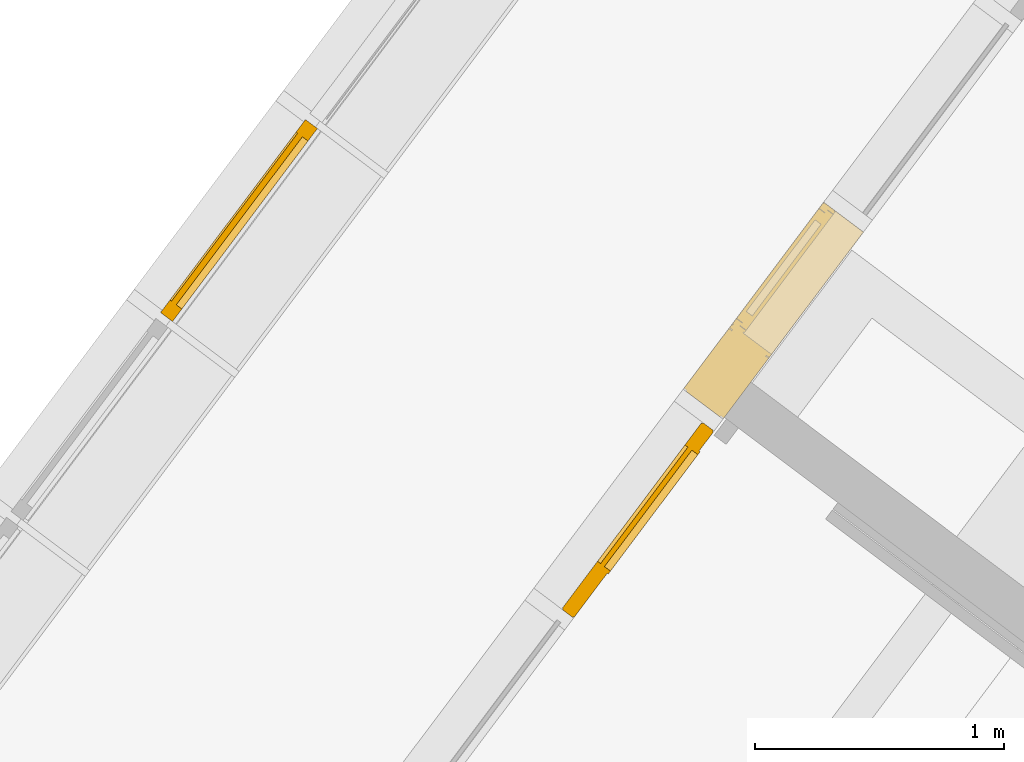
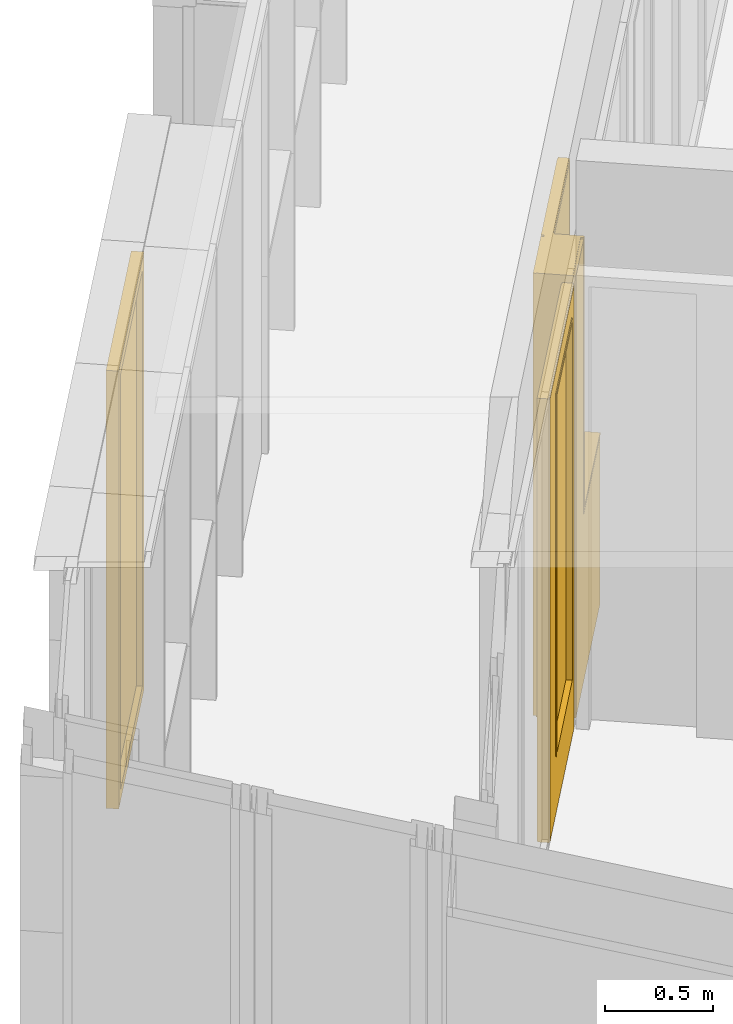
# One storey, part 179 of 243: 2 doors, 1 window, 2 elements without a shape of their own.
"""IFC2X3 building model written with IfcOpenShell, lengths in metres."""

from ifc_helpers import new_model, entity, si_unit, converted_unit, derived_unit, direction, frame, origin, place, context, subcontext, project, spatial, faceted_brep, source, transform, mapped, material, material_list, type_object, type_shapes, element, aggregate, save


model = new_model("IFC2X3")

# Units and contexts
model_context = context("Model", 3, precision=1e-05, world=origin(), true_north=direction((6.123031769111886e-17, 1.0)))
body_context = subcontext(model_context, "Body", "Model", "MODEL_VIEW")
ifc_project = project(units=[si_unit("LENGTHUNIT", "METRE"), si_unit("AREAUNIT", "SQUARE_METRE"), si_unit("VOLUMEUNIT", "CUBIC_METRE"), converted_unit("PLANEANGLEUNIT", "DEGREE", entity("IfcRatioMeasure", 0.017453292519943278), si_unit("PLANEANGLEUNIT", "RADIAN"), dimensions=[0, 0, 0, 0, 0, 0, 0]), si_unit("MASSUNIT", "GRAM", prefix="KILO"), derived_unit("MASSDENSITYUNIT", [(si_unit("MASSUNIT", "GRAM", prefix="KILO"), 1), (si_unit("LENGTHUNIT", "METRE"), -3)]), derived_unit("IONCONCENTRATIONUNIT", [(si_unit("MASSUNIT", "GRAM", prefix="KILO"), 1), (si_unit("LENGTHUNIT", "METRE"), -3)]), derived_unit("MOMENTOFINERTIAUNIT", [(si_unit("LENGTHUNIT", "METRE"), 4)]), si_unit("TIMEUNIT", "SECOND"), si_unit("FREQUENCYUNIT", "HERTZ"), si_unit("THERMODYNAMICTEMPERATUREUNIT", "DEGREE_CELSIUS"), derived_unit("THERMALTRANSMITTANCEUNIT", [(si_unit("MASSUNIT", "GRAM", prefix="KILO"), 1), (si_unit("THERMODYNAMICTEMPERATUREUNIT", "KELVIN"), -1), (si_unit("TIMEUNIT", "SECOND"), -3)]), derived_unit("THERMALCONDUCTANCEUNIT", [(si_unit("MASSUNIT", "GRAM", prefix="KILO"), 1), (si_unit("THERMODYNAMICTEMPERATUREUNIT", "KELVIN"), -1), (si_unit("TIMEUNIT", "SECOND"), -3), (si_unit("LENGTHUNIT", "METRE"), 1)]), derived_unit("VOLUMETRICFLOWRATEUNIT", [(si_unit("LENGTHUNIT", "METRE"), 3), (si_unit("TIMEUNIT", "SECOND"), -1)]), derived_unit("MASSFLOWRATEUNIT", [(si_unit("MASSUNIT", "GRAM", prefix="KILO"), 1), (si_unit("TIMEUNIT", "SECOND"), -1)]), derived_unit("ROTATIONALFREQUENCYUNIT", [(si_unit("TIMEUNIT", "SECOND"), -1)]), si_unit("ELECTRICCURRENTUNIT", "AMPERE"), si_unit("ELECTRICVOLTAGEUNIT", "VOLT"), si_unit("POWERUNIT", "WATT"), si_unit("FORCEUNIT", "NEWTON", prefix="KILO"), si_unit("ILLUMINANCEUNIT", "LUX"), si_unit("LUMINOUSFLUXUNIT", "LUMEN"), si_unit("LUMINOUSINTENSITYUNIT", "CANDELA"), derived_unit("USERDEFINED", [(si_unit("MASSUNIT", "GRAM", prefix="KILO"), -1), (si_unit("LENGTHUNIT", "METRE"), -2), (si_unit("TIMEUNIT", "SECOND"), 3), (si_unit("LUMINOUSFLUXUNIT", "LUMEN"), 1)]), derived_unit("USERDEFINED", [(si_unit("MASSUNIT", "GRAM", prefix="KILO"), 1), (si_unit("TIMEUNIT", "SECOND"), -3), (si_unit("LENGTHUNIT", "METRE"), 3), (si_unit("ELECTRICCURRENTUNIT", "AMPERE"), -2)]), derived_unit("SOUNDPOWERUNIT", [(si_unit("MASSUNIT", "GRAM", prefix="KILO"), 1), (si_unit("TIMEUNIT", "SECOND"), -3), (si_unit("LENGTHUNIT", "METRE"), 2)]), derived_unit("SOUNDPRESSUREUNIT", [(si_unit("MASSUNIT", "GRAM", prefix="KILO"), 1), (si_unit("LENGTHUNIT", "METRE"), -1), (si_unit("TIMEUNIT", "SECOND"), -2)]), derived_unit("LINEARVELOCITYUNIT", [(si_unit("LENGTHUNIT", "METRE"), 1), (si_unit("TIMEUNIT", "SECOND"), -1)]), si_unit("PRESSUREUNIT", "PASCAL"), derived_unit("USERDEFINED", [(si_unit("MASSUNIT", "GRAM", prefix="KILO"), 1), (si_unit("LENGTHUNIT", "METRE"), -2), (si_unit("TIMEUNIT", "SECOND"), -2)]), derived_unit("LINEARFORCEUNIT", [(si_unit("MASSUNIT", "GRAM", prefix="KILO"), 1), (si_unit("TIMEUNIT", "SECOND"), -2)]), derived_unit("PLANARFORCEUNIT", [(si_unit("MASSUNIT", "GRAM", prefix="KILO"), 1), (si_unit("LENGTHUNIT", "METRE"), -1), (si_unit("TIMEUNIT", "SECOND"), -2)]), derived_unit("SPECIFICHEATCAPACITYUNIT", [(si_unit("THERMODYNAMICTEMPERATUREUNIT", "KELVIN"), -1), (si_unit("LENGTHUNIT", "METRE"), 2), (si_unit("TIMEUNIT", "SECOND"), -2)]), derived_unit("HEATINGVALUEUNIT", [(si_unit("LENGTHUNIT", "METRE"), 2), (si_unit("TIMEUNIT", "SECOND"), -2)]), derived_unit("VAPORPERMEABILITYUNIT", [(si_unit("LENGTHUNIT", "METRE"), -1), (si_unit("TIMEUNIT", "SECOND"), 1)]), derived_unit("DYNAMICVISCOSITYUNIT", [(si_unit("MASSUNIT", "GRAM", prefix="KILO"), 1), (si_unit("TIMEUNIT", "SECOND"), -1), (si_unit("LENGTHUNIT", "METRE"), -1)]), derived_unit("THERMALEXPANSIONCOEFFICIENTUNIT", [(si_unit("THERMODYNAMICTEMPERATUREUNIT", "KELVIN"), -1)]), derived_unit("MODULUSOFELASTICITYUNIT", [(si_unit("MASSUNIT", "GRAM", prefix="KILO"), 1), (si_unit("LENGTHUNIT", "METRE"), -1), (si_unit("TIMEUNIT", "SECOND"), -2)]), derived_unit("ISOTHERMALMOISTURECAPACITYUNIT", [(si_unit("LENGTHUNIT", "METRE"), 3), (si_unit("MASSUNIT", "GRAM", prefix="KILO"), -1)]), derived_unit("MOISTUREDIFFUSIVITYUNIT", [(si_unit("TIMEUNIT", "SECOND"), -1), (si_unit("LENGTHUNIT", "METRE"), 2)])], contexts=[model_context])

# Site, building, storey
site_placement = place(None, frame((0.0, 0.0, 235.0), z_axis=(0.0, 0.0, 1.0), x_axis=(-0.7996477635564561, 0.6004693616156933, 0.0)))
site = spatial("IfcSite", under=ifc_project, at=site_placement, Name="Default", CompositionType="ELEMENT")
building_placement = place(site_placement, origin())
building = spatial("IfcBuilding", under=site, at=building_placement, CompositionType="ELEMENT")
storey_placement = place(building_placement, origin())
storey = spatial("IfcBuildingStorey", under=building, at=storey_placement, Name="P0- Escola", CompositionType="ELEMENT", Elevation=0.0)

# Curtain wall, doors
curtain_wall_type_1 = type_object("IfcCurtainWallType", Name="Muro cortina:MC- INT- a1", PredefinedType="NOTDEFINED")
curtain_wall_1_placement = place(storey_placement, origin())
curtain_wall_1 = element("IfcCurtainWall", 1, at=curtain_wall_1_placement, inside=storey, type_object=curtain_wall_type_1, Name="Muro cortina:MC- INT- a1", ObjectType="Muro cortina:MC- INT- a1")
ifc_material_1 = material(Name="_Fusta massisa- T1")
ifc_material_2 = material(Name="_Vidre")
ifc_material_list_1 = material_list([ifc_material_1, ifc_material_2])
door_style_1 = type_object("IfcDoorStyle", Name="MC- Fusta- conjunt porta:MC- Fusta- conjunt Porta aules", ConstructionType="NOTDEFINED", OperationType="NOTDEFINED", ParameterTakesPrecedence=False, Sizeable=False, material=ifc_material_list_1)
shared_shape_1 = source(origin(), body_context, "Body", "Brep", [
    faceted_brep([(-0.24500000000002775, -0.04499999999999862, 2.3799999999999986), (-0.24500000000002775, -0.014999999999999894, 2.3799999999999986), (-0.24500000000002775, -0.01499999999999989, 0.3299999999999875), (-0.24500000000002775, -0.04499999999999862, 0.3299999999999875), (0.37000000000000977, -0.01499999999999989, 0.3299999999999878), (0.37000000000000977, -0.04499999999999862, 0.3299999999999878), (0.3700000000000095, -0.01499999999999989, 2.3799999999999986), (0.3700000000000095, -0.04499999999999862, 2.3799999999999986), (-0.2300000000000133, -0.014999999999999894, 2.3650000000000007), (-0.2300000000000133, -0.014999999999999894, 0.34499999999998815), (0.3549999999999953, -0.014999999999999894, 0.3449999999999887), (0.3549999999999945, -0.014999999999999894, 2.3650000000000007), (-0.2300000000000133, -0.04499999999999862, 2.3650000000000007), (0.3549999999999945, -0.04499999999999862, 2.3650000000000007), (0.3549999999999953, -0.04499999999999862, 0.3449999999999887), (-0.2300000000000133, -0.04499999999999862, 0.34499999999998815)], [[[0, 1, 2, 3]], [[3, 2, 4, 5]], [[5, 4, 6, 7]], [[8, 9, 10, 11], [1, 6, 4, 2]], [[12, 13, 14, 15], [0, 3, 5, 7]], [[15, 9, 8, 12]], [[14, 10, 9, 15]], [[13, 11, 10, 14]], [[7, 6, 1, 0]], [[12, 8, 11, 13]]], outer=[[True], [True], [True], [False, True], [False, True], [True], [True], [True], [True], [True]]),
    faceted_brep([(-0.4399999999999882, 0.01999999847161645, 0.0), (0.4399999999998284, 0.019999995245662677, 0.0), (0.4399999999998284, -0.010000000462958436, 0.0), (0.4549999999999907, -0.010000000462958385, 0.0), (0.4549999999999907, -0.0399999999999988, 0.0), (-0.45500000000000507, -0.03999999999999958, 0.0), (-0.45500000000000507, -0.010000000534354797, 0.0), (-0.4399999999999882, -0.010000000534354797, 0.0), (-0.45500000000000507, -0.03999999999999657, 2.4899999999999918), (0.4549999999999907, -0.03999999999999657, 2.4899999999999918), (-0.2450000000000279, -0.039999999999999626, 0.3300000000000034), (-0.2450000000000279, -0.039999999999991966, 2.3799999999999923), (0.3700000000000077, -0.0399999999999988, 2.3799999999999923), (0.3700000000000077, -0.039999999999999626, 0.3300000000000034), (-0.4550000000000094, -0.010000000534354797, 2.4899999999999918), (0.4549999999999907, -0.010000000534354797, 2.4899999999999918), (-0.4399999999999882, 0.019999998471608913, 2.4749999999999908), (-0.4399999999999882, -0.010000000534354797, 2.4749999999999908), (0.4399999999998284, -0.010000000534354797, 2.4749999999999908), (0.4399999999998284, 0.019999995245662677, 2.4749999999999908), (0.3549999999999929, 0.019999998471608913, 0.3450000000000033), (0.3549999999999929, 0.019999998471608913, 2.364999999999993), (-0.2300000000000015, 0.01999999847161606, 2.364999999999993), (-0.2300000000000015, 0.019999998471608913, 0.3450000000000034), (-0.2300000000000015, 0.005000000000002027, 0.3450000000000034), (0.3549999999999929, 0.005000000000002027, 0.3450000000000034), (-0.2300000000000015, 0.005000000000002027, 2.364999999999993), (0.3549999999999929, 0.0049999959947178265, 2.364999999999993), (0.3700000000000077, 0.005000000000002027, 0.3300000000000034), (0.3700000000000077, 0.005000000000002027, 2.3799999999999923), (-0.24500000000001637, 0.005000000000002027, 2.3799999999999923), (-0.2450000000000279, 0.005000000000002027, 0.3300000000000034), (-0.24500000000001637, 0.004999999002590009, 0.3300000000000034), (-0.24500000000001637, 0.0049999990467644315, 2.3799999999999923), (0.3549999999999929, 0.01999999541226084, 2.364999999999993), (-0.2300000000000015, 0.004999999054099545, 2.364999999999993), (0.3700000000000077, 0.004999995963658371, 2.3799999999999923)], [[[0, 1, 2, 3, 4, 5, 6, 7]], [[8, 5, 4, 9], [10, 11, 12, 13]], [[8, 14, 6, 5]], [[15, 9, 4, 3]], [[16, 0, 7, 17]], [[14, 15, 3, 2, 18, 17, 7, 6]], [[18, 2, 1, 19]], [[20, 21, 22, 23], [16, 19, 1, 0]], [[23, 24, 25, 20]], [[23, 22, 26, 24]], [[25, 27, 21, 20]], [[24, 26, 27, 25], [28, 29, 30, 31]], [[13, 28, 32, 10]], [[31, 33, 11, 10]], [[13, 12, 29, 28]], [[9, 15, 14, 8]], [[17, 18, 19, 16]], [[34, 27, 35, 22]], [[11, 30, 36, 12]]], outer=[[True], [True, False], [True], [True], [True], [True], [True], [False, True], [True], [True], [True], [False, True], [True], [True], [True], [True], [True], [True], [True]]),
    faceted_brep([(0.3700000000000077, 0.004999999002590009, 0.3300000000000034), (0.3700000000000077, -0.0149999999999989, 0.3300000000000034), (-0.24500000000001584, -0.014999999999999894, 0.3300000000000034), (-0.24500000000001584, 0.004999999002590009, 0.3300000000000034), (0.3700000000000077, 0.004999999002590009, 2.380000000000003), (-0.24500000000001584, 0.004999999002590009, 2.380000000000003), (-0.24500000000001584, -0.014999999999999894, 2.380000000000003), (0.3700000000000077, -0.0149999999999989, 2.380000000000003)], [[[0, 1, 2, 3]], [[4, 0, 3, 5]], [[5, 3, 2, 6]], [[6, 2, 1, 7]], [[7, 1, 0, 4]], [[4, 5, 6, 7]]]),
    faceted_brep([(-0.46500000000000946, -0.03999999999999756, 0.0), (-0.46500000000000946, -0.035999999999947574, 0.0), (-0.469999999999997, -0.035999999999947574, 0.0), (-0.469999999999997, 0.016000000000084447, 0.0), (-0.46500000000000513, 0.016000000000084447, 0.0), (-0.46500000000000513, 0.02000000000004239, 0.0), (-0.44000000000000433, 0.02000000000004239, 0.0), (-0.44000000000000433, -0.00999999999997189, 0.0), (-0.4550000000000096, -0.00999999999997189, 0.0), (-0.4550000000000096, -0.03999999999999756, 0.0), (-0.45500000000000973, -0.03999999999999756, 2.4900000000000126), (0.45500000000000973, -0.03999999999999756, 2.4900000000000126), (0.45500000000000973, -0.03999999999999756, 0.0), (0.46500000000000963, -0.03999999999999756, 0.0), (0.46500000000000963, -0.03999999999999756, 2.5000000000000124), (-0.4650000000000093, -0.03999999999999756, 2.500000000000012), (-0.4550000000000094, -0.00999999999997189, 2.4900000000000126), (-0.4400000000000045, -0.00999999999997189, 2.4750000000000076), (0.4400000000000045, -0.00999999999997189, 2.4750000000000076), (0.4400000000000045, -0.00999999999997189, 0.0), (0.45500000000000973, -0.00999999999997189, 0.0), (0.45500000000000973, -0.00999999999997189, 2.4900000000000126), (-0.4400000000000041, 0.02000000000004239, 2.4750000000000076), (-0.4650000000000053, 0.02000000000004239, 2.5000000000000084), (0.4650000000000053, 0.02000000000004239, 2.5000000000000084), (0.4650000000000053, 0.02000000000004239, 0.0), (0.4400000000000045, 0.02000000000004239, 0.0), (0.4400000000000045, 0.02000000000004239, 2.4750000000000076), (-0.46500000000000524, 0.016000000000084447, 2.5000000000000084), (-0.4699999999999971, 0.016000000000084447, 2.5050000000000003), (0.4699999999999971, 0.016000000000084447, 2.5050000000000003), (0.4699999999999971, 0.016000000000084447, 0.0), (0.4650000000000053, 0.016000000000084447, 0.0), (0.4650000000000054, 0.016000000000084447, 2.5000000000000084), (-0.46999999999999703, -0.035999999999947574, 2.5050000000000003), (-0.46500000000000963, -0.035999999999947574, 2.5000000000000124), (0.46500000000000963, -0.035999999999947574, 2.5000000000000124), (0.46500000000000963, -0.035999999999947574, 0.0), (0.4699999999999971, -0.035999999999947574, 0.0), (0.46999999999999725, -0.035999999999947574, 2.5050000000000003)], [[[0, 1, 2, 3, 4, 5, 6, 7, 8, 9]], [[9, 10, 11, 12, 13, 14, 15, 0]], [[8, 16, 10, 9]], [[7, 17, 18, 19, 20, 21, 16, 8]], [[6, 22, 17, 7]], [[5, 23, 24, 25, 26, 27, 22, 6]], [[4, 28, 23, 5]], [[3, 29, 30, 31, 32, 33, 28, 4]], [[2, 34, 29, 3]], [[1, 35, 36, 37, 38, 39, 34, 2]], [[0, 15, 35, 1]], [[14, 13, 37, 36]], [[13, 12, 20, 19, 26, 25, 32, 31, 38, 37]], [[21, 20, 12, 11]], [[27, 26, 19, 18]], [[33, 32, 25, 24]], [[39, 38, 31, 30]], [[16, 21, 11, 10]], [[22, 27, 18, 17]], [[28, 33, 24, 23]], [[34, 39, 30, 29]], [[15, 14, 36, 35]]]),
])
type_shapes(door_style_1, [shared_shape_1])
door_1_placement = place(curtain_wall_1_placement, frame((72.720147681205, -22.915189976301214, 0.0), z_axis=(0.0, 0.0, 1.0), x_axis=(0.0, -1.0, 0.0)))
door_1 = element("IfcDoor", 2, at=door_1_placement, type_object=door_style_1, material=ifc_material_list_1, Name="MC- Fusta- conjunt porta:MC- Fusta- conjunt Porta aules", ObjectType="MC- Fusta- conjunt porta:MC- Fusta- conjunt Porta aules", OverallHeight=2.5050000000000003, OverallWidth=0.9399999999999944, context=body_context, shape_type="MappedRepresentation", body=[
    mapped(shared_shape_1, transform((0.0, 0.0, 0.0), scale=1.0)),
])
ifc_material_3 = material(Name="_Fusta massisa- T1-  REV- PAV")
ifc_material_4 = material(Name="_Aillament")
ifc_material_list_2 = material_list([ifc_material_3, ifc_material_4])
door_style_2 = type_object("IfcDoorStyle", Name="MC- Fusta- Finestra ventilacio interior- Enva:MC- Fusta- Finestra ventilacio interior- Enva", ConstructionType="NOTDEFINED", OperationType="NOTDEFINED", ParameterTakesPrecedence=False, Sizeable=False, material=ifc_material_list_2)
shared_shape_2 = source(origin(), body_context, "Body", "Brep", [
    faceted_brep([(0.39300000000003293, 0.14500000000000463, 2.427999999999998), (-0.06799999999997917, 0.14500000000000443, 2.4280000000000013), (-0.06799999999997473, 0.14500000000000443, 1.0449999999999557), (0.39300000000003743, 0.14500000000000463, 1.0449999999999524), (-0.06799999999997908, 0.11500000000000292, 2.4280000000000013), (-0.0679999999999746, 0.11500000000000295, 1.0449999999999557), (0.39300000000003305, 0.11500000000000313, 2.427999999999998), (0.3930000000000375, 0.11500000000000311, 1.0449999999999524), (-0.11299999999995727, 0.15999999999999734, 2.4729999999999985), (-0.11299999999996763, 0.16000000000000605, 1.0), (-0.11299999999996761, 0.13000000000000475, 1.0), (-0.11299999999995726, 0.1299999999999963, 2.4729999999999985), (0.43800000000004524, 0.13000000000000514, 1.0), (0.43800000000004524, 0.16000000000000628, 1.0), (0.4380000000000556, 0.15999999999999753, 2.472999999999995), (0.4380000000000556, 0.13000000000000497, 2.4730000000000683), (-0.12799999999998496, 0.12999999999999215, 0.9850000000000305), (-0.12799999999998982, 0.13000000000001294, 2.4880000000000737), (0.4530000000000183, 0.13000000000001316, 2.4880000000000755), (0.45300000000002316, 0.12999999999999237, 0.9850000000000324), (-0.1279999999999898, 0.1000000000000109, 2.4880000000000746), (-0.12799999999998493, 0.09999999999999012, 0.9850000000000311), (0.45300000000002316, 0.09999999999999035, 0.985000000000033), (0.4530000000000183, 0.10000000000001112, 2.488000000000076)], [[[0, 1, 2, 3]], [[1, 4, 5, 2]], [[4, 6, 7, 5]], [[3, 7, 6, 0]], [[8, 9, 10, 11]], [[12, 13, 14, 15]], [[15, 14, 8, 11]], [[8, 14, 13, 9]], [[0, 6, 4, 1]], [[2, 5, 7, 3]], [[9, 13, 12, 10]], [[11, 10, 12, 15], [16, 17, 18, 19]], [[20, 21, 22, 23]], [[20, 23, 18, 17]], [[16, 21, 20, 17]], [[18, 23, 22, 19]], [[16, 19, 22, 21]]], outer=[[True], [True], [True], [True], [True], [True], [True], [True], [True], [True], [True], [False, True], [True], [True], [True], [True], [True]]),
    faceted_brep([(0.4650000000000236, 0.14500000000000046, 0.005000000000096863), (0.4650000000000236, 0.1450000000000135, 0.9480000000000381), (-0.16499999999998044, 0.14500000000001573, 0.9480000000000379), (-0.16499999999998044, 0.14500000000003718, 2.5000000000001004), (-0.46500000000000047, 0.14500000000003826, 2.5000000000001), (-0.46500000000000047, 0.14500000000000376, 0.005000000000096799), (0.46500000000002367, 0.15999999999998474, 0.005000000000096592), (0.46500000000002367, 0.15999999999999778, 0.9480000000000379), (-0.16499999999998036, 0.16, 0.9480000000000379), (-0.16499999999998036, 0.1600000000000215, 2.5000000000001), (-0.4650000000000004, 0.16000000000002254, 2.5000000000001), (-0.4650000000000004, 0.159999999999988, 0.005000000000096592)], [[[0, 1, 2, 3, 4, 5]], [[6, 7, 1, 0]], [[7, 8, 2, 1]], [[8, 9, 3, 2]], [[10, 11, 5, 4]], [[11, 6, 0, 5]], [[6, 11, 10, 9, 8, 7]], [[9, 10, 4, 3]]]),
    faceted_brep([(0.465000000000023, -0.039999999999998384, 0.0050000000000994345), (0.465000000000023, -0.039999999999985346, 0.9480000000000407), (-0.16499999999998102, -0.039999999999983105, 0.9480000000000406), (-0.16499999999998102, -0.03999999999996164, 2.500000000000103), (-0.4650000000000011, -0.03999999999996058, 2.5000000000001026), (-0.4650000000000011, -0.03999999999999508, 0.005000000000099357), (0.465000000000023, -0.025000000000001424, 0.005000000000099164), (0.465000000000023, -0.024999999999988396, 0.9480000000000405), (-0.164999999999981, -0.024999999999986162, 0.9480000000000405), (-0.164999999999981, -0.024999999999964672, 2.500000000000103), (-0.4650000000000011, -0.02499999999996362, 2.5000000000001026), (-0.4650000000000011, -0.024999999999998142, 0.00500000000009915)], [[[0, 1, 2, 3, 4, 5]], [[6, 7, 1, 0]], [[7, 8, 2, 1]], [[8, 9, 3, 2]], [[10, 11, 5, 4]], [[11, 6, 0, 5]], [[6, 11, 10, 9, 8, 7]], [[9, 10, 4, 3]]]),
    faceted_brep([(0.4700000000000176, -0.02500000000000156, 0.0), (0.4700000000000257, -0.024999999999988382, 0.9530000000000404), (-0.1599999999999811, -0.02499999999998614, 0.95300000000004), (-0.1599999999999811, -0.024999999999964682, 2.5050000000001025), (-0.47000000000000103, -0.02499999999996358, 2.5050000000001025), (-0.4699999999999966, -0.024999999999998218, 0.0), (0.47000000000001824, 0.14500000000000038, 0.0), (0.4700000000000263, 0.14500000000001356, 0.9530000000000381), (-0.1599999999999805, 0.14500000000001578, 0.9530000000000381), (-0.1599999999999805, 0.14500000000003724, 2.5050000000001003), (-0.4700000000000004, 0.14500000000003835, 2.5050000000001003), (-0.469999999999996, 0.1450000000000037, 0.0)], [[[0, 1, 2, 3, 4, 5]], [[6, 7, 1, 0]], [[7, 8, 2, 1]], [[8, 9, 3, 2]], [[10, 11, 5, 4]], [[11, 6, 0, 5]], [[6, 11, 10, 9, 8, 7]], [[9, 10, 4, 3]]]),
    faceted_brep([(0.4700000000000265, 0.15999999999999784, 0.9530000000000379), (0.4700000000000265, 0.15999999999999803, 0.9680000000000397), (0.4700000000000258, -0.04000000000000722, 0.9680000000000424), (0.4700000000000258, -0.04000000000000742, 0.9530000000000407), (-0.1599999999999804, 0.16000000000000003, 0.9530000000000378), (-0.1599999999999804, 0.1600000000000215, 2.505000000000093), (-0.14499999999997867, 0.16000000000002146, 2.505000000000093), (-0.1449999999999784, 0.16000000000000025, 0.9680000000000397), (-0.14499999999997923, -0.04000000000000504, 0.9680000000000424), (-0.1449999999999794, -0.0399999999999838, 2.505000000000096), (-0.15999999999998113, -0.039999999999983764, 2.505000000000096), (-0.15999999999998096, -0.04000000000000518, 0.9530000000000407)], [[[0, 1, 2, 3]], [[1, 0, 4, 5, 6, 7]], [[2, 1, 7, 8]], [[3, 2, 8, 9, 10, 11]], [[0, 3, 11, 4]], [[4, 11, 10, 5]], [[8, 7, 6, 9]], [[5, 10, 9, 6]]]),
    faceted_brep([(-0.14499999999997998, 0.10400000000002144, 2.5050000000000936), (-0.14499999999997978, 0.15600000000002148, 2.5050000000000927), (-0.14499999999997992, 0.15600000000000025, 0.9680000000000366), (-0.1449999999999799, 0.10400000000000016, 0.9680000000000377), (-0.13999999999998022, 0.15600000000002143, 2.5000000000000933), (-0.1399999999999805, 0.1560000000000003, 0.973000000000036), (0.46500000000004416, 0.15599999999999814, 0.9729999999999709), (0.46500000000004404, 0.15600000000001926, 2.5000000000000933), (0.47000000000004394, 0.1560000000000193, 2.505000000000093), (0.46999999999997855, 0.15599999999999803, 0.9680000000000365), (0.46999999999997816, 0.10399999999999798, 0.9680000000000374), (0.47000000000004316, 0.10400000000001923, 2.505000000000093), (0.4650000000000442, 0.1040000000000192, 2.5000000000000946), (0.46499999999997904, 0.10399999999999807, 0.9730000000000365), (-0.1399999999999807, 0.10400000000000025, 0.9730000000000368), (-0.13999999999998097, 0.10400000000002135, 2.5000000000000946), (-0.13999999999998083, 0.10000000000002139, 2.5000000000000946), (-0.1399999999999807, 0.10000000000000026, 0.9730000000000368), (0.4649999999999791, 0.09999999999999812, 0.9730000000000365), (0.46500000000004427, 0.10000000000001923, 2.5000000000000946), (0.45500000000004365, 0.10000000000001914, 2.490000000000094), (0.45499999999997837, 0.09999999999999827, 0.9830000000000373), (-0.12999999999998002, 0.10000000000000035, 0.9830000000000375), (-0.1299999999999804, 0.10000000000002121, 2.490000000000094), (-0.1299999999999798, 0.1300000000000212, 2.4900000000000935), (-0.12999999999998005, 0.13000000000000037, 0.983000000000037), (0.45499999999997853, 0.1299999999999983, 0.9830000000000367), (0.45500000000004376, 0.13000000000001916, 2.4900000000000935), (0.44000000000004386, 0.13000000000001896, 2.475000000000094), (0.43999999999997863, 0.1299999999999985, 0.9980000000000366), (-0.11499999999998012, 0.1300000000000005, 0.9980000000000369), (-0.11499999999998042, 0.13000000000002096, 2.475000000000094), (-0.11499999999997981, 0.16000000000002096, 2.475000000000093), (-0.11499999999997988, 0.1600000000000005, 0.9980000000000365), (0.43999999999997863, 0.15999999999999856, 0.9980000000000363), (0.4400000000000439, 0.160000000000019, 2.475000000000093), (0.46500000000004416, 0.16000000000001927, 2.5000000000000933), (0.4649999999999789, 0.15999999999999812, 0.973000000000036), (-0.13999999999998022, 0.16000000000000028, 0.9730000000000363), (-0.13999999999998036, 0.16000000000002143, 2.5000000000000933)], [[[0, 1, 2, 3]], [[4, 5, 6, 7], [8, 9, 2, 1]], [[3, 2, 9, 10]], [[0, 3, 10, 11], [12, 13, 14, 15]], [[16, 15, 14, 17]], [[17, 14, 13, 18]], [[16, 17, 18, 19], [20, 21, 22, 23]], [[24, 23, 22, 25]], [[25, 22, 21, 26]], [[24, 25, 26, 27], [28, 29, 30, 31]], [[32, 31, 30, 33]], [[33, 30, 29, 34]], [[32, 33, 34, 35], [36, 37, 38, 39]], [[4, 39, 38, 5]], [[5, 38, 37, 6]], [[10, 9, 8, 11]], [[18, 13, 12, 19]], [[26, 21, 20, 27]], [[34, 29, 28, 35]], [[6, 37, 36, 7]], [[11, 8, 1, 0]], [[19, 12, 15, 16]], [[27, 20, 23, 24]], [[35, 28, 31, 32]], [[7, 36, 39, 4]]], outer=[[True], [False, True], [True], [True, False], [True], [True], [True, False], [True], [True], [True, False], [True], [True], [False, True], [True], [True], [True], [True], [True], [True], [True], [True], [True], [True], [True], [True]]),
])
type_shapes(door_style_2, [shared_shape_2])
door_2_placement = place(curtain_wall_1_placement, frame((72.720147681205, -23.915189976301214, 0.0), z_axis=(0.0, 0.0, 1.0), x_axis=(0.0, -1.0, 0.0)))
door_2 = element("IfcDoor", 3, at=door_2_placement, type_object=door_style_2, material=ifc_material_list_2, Name="MC- Fusta- Finestra ventilacio interior- Enva:MC- Fusta- Finestra ventilacio interior- Enva", ObjectType="MC- Fusta- Finestra ventilacio interior- Enva:MC- Fusta- Finestra ventilacio interior- Enva", OverallHeight=2.5050000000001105, OverallWidth=0.9400000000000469, context=body_context, shape_type="MappedRepresentation", body=[
    mapped(shared_shape_2, transform((0.0, 0.0, 0.0), scale=1.0)),
])
aggregate(curtain_wall_1, [door_1, door_2])

# Curtain wall, window
curtain_wall_type_2 = type_object("IfcCurtainWallType", Name="Muro cortina:MC- EXT- MC5", PredefinedType="NOTDEFINED")
curtain_wall_2_placement = place(storey_placement, origin())
curtain_wall_2 = element("IfcCurtainWall", 4, at=curtain_wall_2_placement, inside=storey, type_object=curtain_wall_type_2, Name="Muro cortina:MC- EXT- MC5", ObjectType="Muro cortina:MC- EXT- MC5")
ifc_material_5 = material(Name="_Alumini- T1- Perfil")
ifc_material_list_3 = material_list([ifc_material_2, ifc_material_5])
window_style = type_object("IfcWindowStyle", Name="MC- Alu- Conjunt vidre fix- 62x60 cm:MC- Alu- Conjunt vidre fix- 62x60 cm", ConstructionType="NOTDEFINED", OperationType="NOTDEFINED", ParameterTakesPrecedence=False, Sizeable=False, material=ifc_material_list_3)
shared_shape_3 = source(origin(), body_context, "Body", "Brep", [
    faceted_brep([(-0.43619328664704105, -0.007600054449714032, 0.048806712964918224), (0.43619328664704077, -0.007600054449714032, 0.048806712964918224), (0.43619328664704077, -0.03160022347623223, 0.048806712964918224), (-0.43619328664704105, -0.03160022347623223, 0.048806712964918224), (-0.43619328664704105, -0.007600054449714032, 2.422449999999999), (0.43619328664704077, -0.007600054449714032, 2.422449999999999), (0.43619328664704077, -0.03160022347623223, 2.422449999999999), (-0.43619328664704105, -0.03160022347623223, 2.422449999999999)], [[[0, 1, 2, 3]], [[4, 5, 1, 0]], [[5, 6, 2, 1]], [[6, 7, 3, 2]], [[7, 4, 0, 3]], [[4, 7, 6, 5]]]),
    faceted_brep([(-0.4849999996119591, -0.05999999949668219, 2.471449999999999), (-0.4849999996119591, 0.0, 2.471449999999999), (-0.4849999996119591, 0.0, 0.0), (-0.48499999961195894, -0.05999999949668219, 0.0), (-0.4221931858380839, 0.0, 2.408643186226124), (-0.4221931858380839, 0.0, 0.06280681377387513), (0.42219318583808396, 0.0, 0.06280681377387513), (0.422193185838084, 0.0, 2.408643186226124), (0.4849999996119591, 0.0, 2.471449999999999), (0.4849999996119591, 0.0, 0.0), (0.48499999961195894, -0.05999999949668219, 0.0), (0.4849999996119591, -0.05999999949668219, 2.471449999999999), (0.42219603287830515, -0.05999999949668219, 2.408646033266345), (0.42219603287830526, -0.05999999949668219, 0.06280396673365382), (-0.42219603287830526, -0.05999999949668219, 0.06280396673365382), (-0.42219603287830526, -0.05999999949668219, 2.4086460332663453), (-0.42219603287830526, -0.03160022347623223, 2.4086460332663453), (-0.4221960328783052, -0.03160022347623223, 0.06280396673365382), (0.4221960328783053, -0.03160022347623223, 0.06280396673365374), (0.42219603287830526, -0.03160022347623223, 2.4086460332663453), (0.43619328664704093, -0.03160022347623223, 2.422643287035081), (0.43619328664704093, -0.03160022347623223, 0.048806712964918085), (-0.4361932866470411, -0.03160022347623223, 0.04880671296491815), (-0.43619328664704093, -0.03160022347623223, 2.422643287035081), (-0.43619328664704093, -0.007600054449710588, 2.422643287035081), (-0.4361932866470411, -0.007600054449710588, 0.04880671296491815), (0.43619328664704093, -0.007600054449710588, 0.048806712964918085), (0.43619328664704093, -0.007600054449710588, 2.422643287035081), (0.42219318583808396, -0.007600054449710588, 2.408643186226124), (0.42219318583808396, -0.007600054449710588, 0.06280681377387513), (-0.42219318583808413, -0.007600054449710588, 0.06280681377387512), (-0.4221931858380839, -0.007600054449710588, 2.408643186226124)], [[[0, 1, 2, 3]], [[4, 5, 6, 7], [8, 9, 2, 1]], [[3, 2, 9, 10]], [[0, 3, 10, 11], [12, 13, 14, 15]], [[16, 15, 14, 17]], [[17, 14, 13, 18]], [[16, 17, 18, 19], [20, 21, 22, 23]], [[24, 23, 22, 25]], [[25, 22, 21, 26]], [[24, 25, 26, 27], [28, 29, 30, 31]], [[4, 31, 30, 5]], [[5, 30, 29, 6]], [[10, 9, 8, 11]], [[18, 13, 12, 19]], [[26, 21, 20, 27]], [[6, 29, 28, 7]], [[11, 8, 1, 0]], [[19, 12, 15, 16]], [[27, 20, 23, 24]], [[7, 28, 31, 4]]], outer=[[True], [False, True], [True], [True, False], [True], [True], [False, True], [True], [True], [True, False], [True], [True], [True], [True], [True], [True], [True], [True], [True], [True]]),
])
type_shapes(window_style, [shared_shape_3])
window_placement = place(curtain_wall_2_placement, frame((74.7451476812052, -22.915191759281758, 0.03229999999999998), z_axis=(0.0, 0.0, 1.0), x_axis=(0.0, -1.0, 0.0)))
window = element("IfcWindow", 5, at=window_placement, type_object=window_style, material=ifc_material_list_3, Name="MC- Alu- Conjunt vidre fix- 62x60 cm:MC- Alu- Conjunt vidre fix- 62x60 cm", ObjectType="MC- Alu- Conjunt vidre fix- 62x60 cm:MC- Alu- Conjunt vidre fix- 62x60 cm", OverallHeight=2.471449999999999, OverallWidth=0.9699999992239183, context=body_context, shape_type="MappedRepresentation", body=[
    mapped(shared_shape_3, transform((0.0, 0.0, 0.0), scale=1.0)),
])
aggregate(curtain_wall_2, [window])

save(model, "model.ifc")
